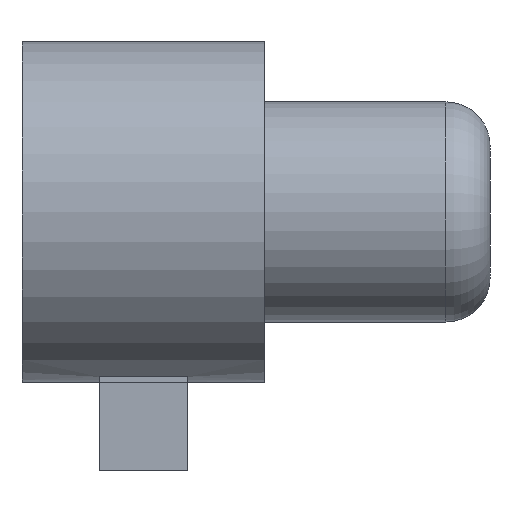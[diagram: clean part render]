
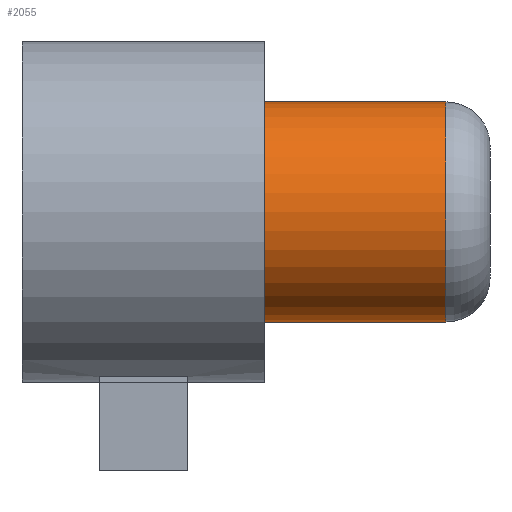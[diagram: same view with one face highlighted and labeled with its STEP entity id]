
A CAD part, front view. The second image highlights one B-rep face of the part: STEP entity #2055.
In plain terms, the highlighted cylindrical face has radius 1 mm (diameter 2 mm), a full revolution.
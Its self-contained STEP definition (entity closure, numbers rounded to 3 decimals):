
#95 = PLANE('',#96);
#96 = AXIS2_PLACEMENT_3D('',#97,#98,#99);
#97 = CARTESIAN_POINT('',(0.075,0.,0.));
#98 = DIRECTION('',(1.,0.,0.));
#99 = DIRECTION('',(0.,0.,-1.));
#1461 = EDGE_CURVE('',#1462,#1462,#1464,.T.);
#1462 = VERTEX_POINT('',#1463);
#1463 = CARTESIAN_POINT('',(0.075,0.,-1.));
#1464 = SURFACE_CURVE('',#1465,(#1470,#1477),.PCURVE_S1.);
#1465 = CIRCLE('',#1466,1.);
#1466 = AXIS2_PLACEMENT_3D('',#1467,#1468,#1469);
#1467 = CARTESIAN_POINT('',(0.075,0.,0.));
#1468 = DIRECTION('',(1.,-0.,0.));
#1469 = DIRECTION('',(0.,0.,-1.));
#1470 = PCURVE('',#95,#1471);
#1471 = DEFINITIONAL_REPRESENTATION('',(#1472),#1476);
#1472 = CIRCLE('',#1473,1.);
#1473 = AXIS2_PLACEMENT_2D('',#1474,#1475);
#1474 = CARTESIAN_POINT('',(0.,0.));
#1475 = DIRECTION('',(1.,0.));
#1476 = ( GEOMETRIC_REPRESENTATION_CONTEXT(2) 
PARAMETRIC_REPRESENTATION_CONTEXT() REPRESENTATION_CONTEXT('2D SPACE',''
  ) );
#1477 = PCURVE('',#1478,#1483);
#1478 = CYLINDRICAL_SURFACE('',#1479,1.);
#1479 = AXIS2_PLACEMENT_3D('',#1480,#1481,#1482);
#1480 = CARTESIAN_POINT('',(0.075,0.,0.));
#1481 = DIRECTION('',(1.,0.,0.));
#1482 = DIRECTION('',(0.,0.,-1.));
#1483 = DEFINITIONAL_REPRESENTATION('',(#1484),#1488);
#1484 = LINE('',#1485,#1486);
#1485 = CARTESIAN_POINT('',(0.,0.));
#1486 = VECTOR('',#1487,1.);
#1487 = DIRECTION('',(1.,0.));
#1488 = ( GEOMETRIC_REPRESENTATION_CONTEXT(2) 
PARAMETRIC_REPRESENTATION_CONTEXT() REPRESENTATION_CONTEXT('2D SPACE',''
  ) );
#2055 = ADVANCED_FACE('',(#2056),#1478,.T.);
#2056 = FACE_BOUND('',#2057,.T.);
#2057 = EDGE_LOOP('',(#2058,#2081,#2108,#2109));
#2058 = ORIENTED_EDGE('',*,*,#2059,.T.);
#2059 = EDGE_CURVE('',#1462,#2060,#2062,.T.);
#2060 = VERTEX_POINT('',#2061);
#2061 = CARTESIAN_POINT('',(1.725,0.,-1.));
#2062 = SEAM_CURVE('',#2063,(#2067,#2074),.PCURVE_S1.);
#2063 = LINE('',#2064,#2065);
#2064 = CARTESIAN_POINT('',(0.075,0.,-1.));
#2065 = VECTOR('',#2066,1.);
#2066 = DIRECTION('',(1.,0.,0.));
#2067 = PCURVE('',#1478,#2068);
#2068 = DEFINITIONAL_REPRESENTATION('',(#2069),#2073);
#2069 = LINE('',#2070,#2071);
#2070 = CARTESIAN_POINT('',(6.283,0.));
#2071 = VECTOR('',#2072,1.);
#2072 = DIRECTION('',(0.,1.));
#2073 = ( GEOMETRIC_REPRESENTATION_CONTEXT(2) 
PARAMETRIC_REPRESENTATION_CONTEXT() REPRESENTATION_CONTEXT('2D SPACE',''
  ) );
#2074 = PCURVE('',#1478,#2075);
#2075 = DEFINITIONAL_REPRESENTATION('',(#2076),#2080);
#2076 = LINE('',#2077,#2078);
#2077 = CARTESIAN_POINT('',(0.,0.));
#2078 = VECTOR('',#2079,1.);
#2079 = DIRECTION('',(0.,1.));
#2080 = ( GEOMETRIC_REPRESENTATION_CONTEXT(2) 
PARAMETRIC_REPRESENTATION_CONTEXT() REPRESENTATION_CONTEXT('2D SPACE',''
  ) );
#2081 = ORIENTED_EDGE('',*,*,#2082,.F.);
#2082 = EDGE_CURVE('',#2060,#2060,#2083,.T.);
#2083 = SURFACE_CURVE('',#2084,(#2089,#2096),.PCURVE_S1.);
#2084 = CIRCLE('',#2085,1.);
#2085 = AXIS2_PLACEMENT_3D('',#2086,#2087,#2088);
#2086 = CARTESIAN_POINT('',(1.725,0.,0.));
#2087 = DIRECTION('',(1.,-0.,0.));
#2088 = DIRECTION('',(0.,0.,-1.));
#2089 = PCURVE('',#1478,#2090);
#2090 = DEFINITIONAL_REPRESENTATION('',(#2091),#2095);
#2091 = LINE('',#2092,#2093);
#2092 = CARTESIAN_POINT('',(0.,1.65));
#2093 = VECTOR('',#2094,1.);
#2094 = DIRECTION('',(1.,0.));
#2095 = ( GEOMETRIC_REPRESENTATION_CONTEXT(2) 
PARAMETRIC_REPRESENTATION_CONTEXT() REPRESENTATION_CONTEXT('2D SPACE',''
  ) );
#2096 = PCURVE('',#2097,#2102);
#2097 = TOROIDAL_SURFACE('',#2098,0.6,0.4);
#2098 = AXIS2_PLACEMENT_3D('',#2099,#2100,#2101);
#2099 = CARTESIAN_POINT('',(1.725,0.,0.));
#2100 = DIRECTION('',(1.,-0.,0.));
#2101 = DIRECTION('',(0.,0.,-1.));
#2102 = DEFINITIONAL_REPRESENTATION('',(#2103),#2107);
#2103 = LINE('',#2104,#2105);
#2104 = CARTESIAN_POINT('',(0.,0.));
#2105 = VECTOR('',#2106,1.);
#2106 = DIRECTION('',(1.,0.));
#2107 = ( GEOMETRIC_REPRESENTATION_CONTEXT(2) 
PARAMETRIC_REPRESENTATION_CONTEXT() REPRESENTATION_CONTEXT('2D SPACE',''
  ) );
#2108 = ORIENTED_EDGE('',*,*,#2059,.F.);
#2109 = ORIENTED_EDGE('',*,*,#1461,.T.);
